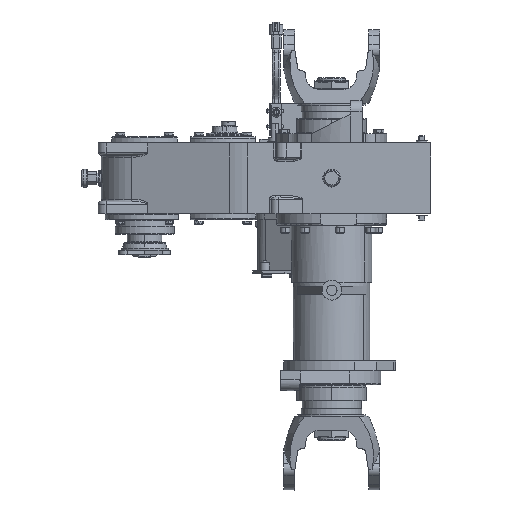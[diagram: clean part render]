
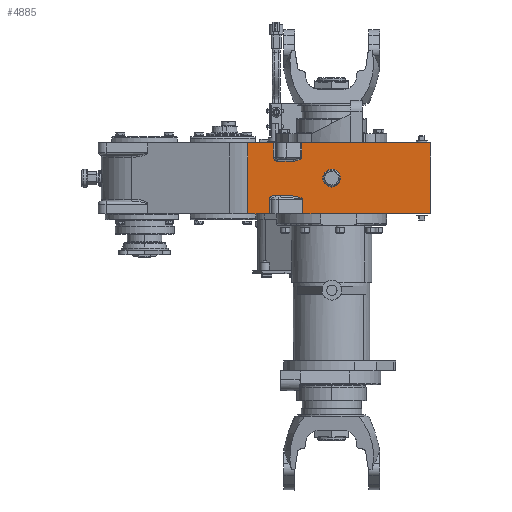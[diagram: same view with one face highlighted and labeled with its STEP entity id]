
A CAD part, left-side view. The second image highlights one B-rep face of the part: STEP entity #4885.
In plain terms, the highlighted planar face has unit normal (-1, 0, 0).
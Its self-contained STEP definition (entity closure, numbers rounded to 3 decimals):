
#245=CARTESIAN_POINT('',(-4.75,-5.097,-2.253));
#247=CARTESIAN_POINT('',(-4.75,-13.2,-2.253));
#1067=CARTESIAN_POINT('',(-4.75,-13.2,2.25));
#1092=CARTESIAN_POINT('',(-4.75,-3.221,2.25));
#2316=DIRECTION('',(0.,-1.,0.));
#2317=VECTOR('',#2316,1.392);
#2318=CARTESIAN_POINT('',(-4.75,-1.58,-2.253));
#2319=LINE('',#2318,#2317);
#2320=DIRECTION('',(0.,1.,0.));
#2321=VECTOR('',#2320,1.641);
#2322=CARTESIAN_POINT('',(-4.75,-3.221,2.25));
#2323=LINE('',#2322,#2321);
#2324=DIRECTION('',(0.,0.,-1.));
#2325=VECTOR('',#2324,0.911);
#2326=CARTESIAN_POINT('',(-4.75,-3.221,2.25));
#2327=LINE('',#2326,#2325);
#2328=CARTESIAN_POINT('',(-4.75,-3.487,
1.089));
#2329=CARTESIAN_POINT('',(-4.75,-3.457,
1.089));
#2330=CARTESIAN_POINT('',(-4.75,-3.401,
1.097));
#2331=CARTESIAN_POINT('',(-4.75,-3.323,
1.136));
#2332=CARTESIAN_POINT('',(-4.75,-3.265,
1.194));
#2333=CARTESIAN_POINT('',(-4.75,-3.228,
1.265));
#2334=CARTESIAN_POINT('',(-4.75,-3.22,
1.314));
#2335=CARTESIAN_POINT('',(-4.75,-3.221,
1.339));
#2337=CARTESIAN_POINT('',(-4.75,-5.014,
1.339));
#2338=CARTESIAN_POINT('',(-4.75,-5.014,
1.322));
#2339=CARTESIAN_POINT('',(-4.75,-5.007,
1.288));
#2340=CARTESIAN_POINT('',(-4.75,-4.973,
1.238));
#2341=CARTESIAN_POINT('',(-4.75,-4.922,
1.195));
#2342=CARTESIAN_POINT('',(-4.75,-4.857,1.159));
#2343=CARTESIAN_POINT('',(-4.75,-4.78,
1.13));
#2344=CARTESIAN_POINT('',(-4.75,-4.692,
1.108));
#2345=CARTESIAN_POINT('',(-4.75,-4.594,
1.093));
#2346=CARTESIAN_POINT('',(-4.75,-4.52,
1.089));
#2347=CARTESIAN_POINT('',(-4.75,-4.482,
1.089));
#2349=DIRECTION('',(0.,1.,0.));
#2350=VECTOR('',#2349,8.186);
#2351=CARTESIAN_POINT('',(-4.75,-13.2,2.25));
#2352=LINE('',#2351,#2350);
#2353=DIRECTION('',(0.,0.,-1.));
#2354=VECTOR('',#2353,4.503);
#2355=CARTESIAN_POINT('',(-4.75,-13.2,2.25));
#2356=LINE('',#2355,#2354);
#2357=DIRECTION('',(0.,-1.,0.));
#2358=VECTOR('',#2357,8.103);
#2359=CARTESIAN_POINT('',(-4.75,-5.097,-2.253));
#2360=LINE('',#2359,#2358);
#2361=DIRECTION('',(0.,0.,1.));
#2362=VECTOR('',#2361,0.914);
#2363=CARTESIAN_POINT('',(-4.75,-5.097,-2.253));
#2364=LINE('',#2363,#2362);
#2365=CARTESIAN_POINT('',(-4.75,-3.658,
-1.089));
#2366=CARTESIAN_POINT('',(-4.75,-3.707,
-1.089));
#2367=CARTESIAN_POINT('',(-4.75,-3.801,
-1.09));
#2368=CARTESIAN_POINT('',(-4.75,-3.932,
-1.093));
#2369=CARTESIAN_POINT('',(-4.75,-4.052,
-1.098));
#2370=CARTESIAN_POINT('',(-4.75,-4.164,
-1.104));
#2371=CARTESIAN_POINT('',(-4.75,-4.266,
-1.112));
#2372=CARTESIAN_POINT('',(-4.75,-4.361,
-1.12));
#2373=CARTESIAN_POINT('',(-4.75,-4.449,
-1.13));
#2374=CARTESIAN_POINT('',(-4.75,-4.529,
-1.14));
#2375=CARTESIAN_POINT('',(-4.75,-4.604,-1.15));
#2376=CARTESIAN_POINT('',(-4.75,-4.672,
-1.161));
#2377=CARTESIAN_POINT('',(-4.75,-4.735,
-1.173));
#2378=CARTESIAN_POINT('',(-4.75,-4.793,
-1.185));
#2379=CARTESIAN_POINT('',(-4.75,-4.846,
-1.197));
#2380=CARTESIAN_POINT('',(-4.75,-4.895,
-1.211));
#2381=CARTESIAN_POINT('',(-4.75,-4.939,
-1.224));
#2382=CARTESIAN_POINT('',(-4.75,-4.979,
-1.239));
#2383=CARTESIAN_POINT('',(-4.75,-5.015,
-1.255));
#2384=CARTESIAN_POINT('',(-4.75,-5.046,
-1.272));
#2385=CARTESIAN_POINT('',(-4.75,-5.073,
-1.291));
#2386=CARTESIAN_POINT('',(-4.75,-5.093,
-1.314));
#2387=CARTESIAN_POINT('',(-4.75,-5.097,
-1.33));
#2388=CARTESIAN_POINT('',(-4.75,-5.097,
-1.339));
#2390=CARTESIAN_POINT('',(-4.75,-2.972,
-1.339));
#2391=CARTESIAN_POINT('',(-4.75,-2.972,
-1.312));
#2392=CARTESIAN_POINT('',(-4.75,-2.982,
-1.26));
#2393=CARTESIAN_POINT('',(-4.75,-3.026,
-1.186));
#2394=CARTESIAN_POINT('',(-4.75,-3.101,
-1.127));
#2395=CARTESIAN_POINT('',(-4.75,-3.204,
-1.094));
#2396=CARTESIAN_POINT('',(-4.75,-3.283,
-1.088));
#2397=CARTESIAN_POINT('',(-4.75,-3.326,
-1.089));
#2399=CARTESIAN_POINT('',(-4.75,-6.924,0.));
#2400=DIRECTION('',(1.,0.,0.));
#2401=DIRECTION('',(0.,0.,-1.));
#2402=AXIS2_PLACEMENT_3D('',#2399,#2400,#2401);
#2404=CARTESIAN_POINT('',(-4.75,-6.924,0.));
#2405=DIRECTION('',(1.,0.,0.));
#2406=DIRECTION('',(0.,0.,1.));
#2407=AXIS2_PLACEMENT_3D('',#2404,#2405,#2406);
#2413=DIRECTION('',(0.,0.,-1.));
#2414=VECTOR('',#2413,4.503);
#2415=CARTESIAN_POINT('',(-4.75,-1.58,2.25));
#2416=LINE('',#2415,#2414);
#2450=DIRECTION('',(0.,0.,1.));
#2451=VECTOR('',#2450,0.911);
#2452=CARTESIAN_POINT('',(-4.75,-5.014,
1.339));
#2453=LINE('',#2452,#2451);
#2468=DIRECTION('',(0.,-1.,0.));
#2469=VECTOR('',#2468,0.995);
#2470=CARTESIAN_POINT('',(-4.75,-3.487,
1.089));
#2471=LINE('',#2470,#2469);
#2560=DIRECTION('',(0.,0.,-1.));
#2561=VECTOR('',#2560,0.914);
#2562=CARTESIAN_POINT('',(-4.75,-2.972,
-1.339));
#2563=LINE('',#2562,#2561);
#2573=DIRECTION('',(0.,1.,0.));
#2574=VECTOR('',#2573,0.332);
#2575=CARTESIAN_POINT('',(-4.75,-3.658,
-1.089));
#2576=LINE('',#2575,#2574);
#3074=VERTEX_POINT('',#245);
#3075=VERTEX_POINT('',#247);
#3150=VERTEX_POINT('',#1067);
#3152=VERTEX_POINT('',#1092);
#3257=CARTESIAN_POINT('',(-4.75,-5.097,
-1.339));
#3258=VERTEX_POINT('',#3257);
#3259=CARTESIAN_POINT('',(-4.75,-3.221,
1.339));
#3260=VERTEX_POINT('',#3259);
#3328=CARTESIAN_POINT('',(-4.75,-2.972,-2.253));
#3329=VERTEX_POINT('',#3328);
#3330=CARTESIAN_POINT('',(-4.75,-1.58,-2.253));
#3331=VERTEX_POINT('',#3330);
#3381=CARTESIAN_POINT('',(-4.75,-1.58,2.25));
#3382=VERTEX_POINT('',#3381);
#3389=CARTESIAN_POINT('',(-4.75,-5.014,2.25));
#3390=VERTEX_POINT('',#3389);
#3427=VERTEX_POINT('',#2328);
#3428=CARTESIAN_POINT('',(-4.75,-4.482,
1.089));
#3429=VERTEX_POINT('',#3428);
#3430=VERTEX_POINT('',#2337);
#3431=VERTEX_POINT('',#2365);
#3432=CARTESIAN_POINT('',(-4.75,-3.326,
-1.089));
#3433=VERTEX_POINT('',#3432);
#3434=VERTEX_POINT('',#2390);
#3435=CARTESIAN_POINT('',(-4.75,-6.924,-0.562));
#3436=CARTESIAN_POINT('',(-4.75,-6.924,0.562));
#3437=VERTEX_POINT('',#3435);
#3438=VERTEX_POINT('',#3436);
#4844=CARTESIAN_POINT('',(-4.75,-7.39,-0.001));
#4845=DIRECTION('',(1.,0.,0.));
#4846=DIRECTION('',(0.,-1.,0.));
#4847=AXIS2_PLACEMENT_3D('',#4844,#4845,#4846);
#4848=PLANE('',#4847);
#4849=ORIENTED_EDGE('',*,*,#3771,.F.);
#4851=ORIENTED_EDGE('',*,*,#4850,.F.);
#4852=ORIENTED_EDGE('',*,*,#4197,.F.);
#4854=ORIENTED_EDGE('',*,*,#4853,.T.);
#4856=ORIENTED_EDGE('',*,*,#4855,.F.);
#4858=ORIENTED_EDGE('',*,*,#4857,.T.);
#4860=ORIENTED_EDGE('',*,*,#4859,.F.);
#4862=ORIENTED_EDGE('',*,*,#4861,.T.);
#4863=ORIENTED_EDGE('',*,*,#4185,.F.);
#4865=ORIENTED_EDGE('',*,*,#4864,.T.);
#4866=ORIENTED_EDGE('',*,*,#3781,.F.);
#4868=ORIENTED_EDGE('',*,*,#4867,.T.);
#4870=ORIENTED_EDGE('',*,*,#4869,.F.);
#4872=ORIENTED_EDGE('',*,*,#4871,.T.);
#4874=ORIENTED_EDGE('',*,*,#4873,.F.);
#4876=ORIENTED_EDGE('',*,*,#4875,.T.);
#4877=EDGE_LOOP('',(#4849,#4851,#4852,#4854,#4856,#4858,#4860,#4862,#4863,#4865,
#4866,#4868,#4870,#4872,#4874,#4876));
#4878=FACE_OUTER_BOUND('',#4877,.F.);
#4880=ORIENTED_EDGE('',*,*,#4879,.F.);
#4882=ORIENTED_EDGE('',*,*,#4881,.F.);
#4883=EDGE_LOOP('',(#4880,#4882));
#4884=FACE_BOUND('',#4883,.F.);
#4885=ADVANCED_FACE('',(#4878,#4884),#4848,.F.);
#2336=B_SPLINE_CURVE_WITH_KNOTS('',3,(#2328,#2329,#2330,#2331,#2332,#2333,#2334,
#2335),.UNSPECIFIED.,.F.,.F.,(4,1,1,1,1,4),(0.,0.2,0.4,0.6,0.8,1.),
.UNSPECIFIED.);
#2348=B_SPLINE_CURVE_WITH_KNOTS('',3,(#2337,#2338,#2339,#2340,#2341,#2342,#2343,
#2344,#2345,#2346,#2347),.UNSPECIFIED.,.F.,.F.,(4,1,1,1,1,1,1,1,4),(0.,
0.125,0.25,0.375,0.5,0.625,0.75,0.875,1.),.UNSPECIFIED.);
#2389=B_SPLINE_CURVE_WITH_KNOTS('',3,(#2365,#2366,#2367,#2368,#2369,#2370,#2371,
#2372,#2373,#2374,#2375,#2376,#2377,#2378,#2379,#2380,#2381,#2382,#2383,#2384,
#2385,#2386,#2387,#2388),.UNSPECIFIED.,.F.,.F.,(4,1,1,1,1,1,1,1,1,1,1,1,1,1,1,1,
1,1,1,1,1,4),(0.,0.048,0.095,0.143,
0.19,0.238,0.286,0.333,
0.381,0.429,0.476,0.524,
0.571,0.619,0.667,0.714,
0.762,0.81,0.857,0.905,
0.952,1.),.UNSPECIFIED.);
#2398=B_SPLINE_CURVE_WITH_KNOTS('',3,(#2390,#2391,#2392,#2393,#2394,#2395,#2396,
#2397),.UNSPECIFIED.,.F.,.F.,(4,1,1,1,1,4),(0.,0.2,0.4,0.6,0.8,1.),
.UNSPECIFIED.);
#2403=CIRCLE('',#2402,0.562);
#2408=CIRCLE('',#2407,0.562);
#3771=EDGE_CURVE('',#3331,#3329,#2319,.T.);
#3781=EDGE_CURVE('',#3074,#3075,#2360,.T.);
#4185=EDGE_CURVE('',#3150,#3390,#2352,.T.);
#4197=EDGE_CURVE('',#3152,#3382,#2323,.T.);
#4850=EDGE_CURVE('',#3382,#3331,#2416,.T.);
#4853=EDGE_CURVE('',#3152,#3260,#2327,.T.);
#4855=EDGE_CURVE('',#3427,#3260,#2336,.T.);
#4857=EDGE_CURVE('',#3427,#3429,#2471,.T.);
#4859=EDGE_CURVE('',#3430,#3429,#2348,.T.);
#4861=EDGE_CURVE('',#3430,#3390,#2453,.T.);
#4864=EDGE_CURVE('',#3150,#3075,#2356,.T.);
#4867=EDGE_CURVE('',#3074,#3258,#2364,.T.);
#4869=EDGE_CURVE('',#3431,#3258,#2389,.T.);
#4871=EDGE_CURVE('',#3431,#3433,#2576,.T.);
#4873=EDGE_CURVE('',#3434,#3433,#2398,.T.);
#4875=EDGE_CURVE('',#3434,#3329,#2563,.T.);
#4879=EDGE_CURVE('',#3437,#3438,#2403,.T.);
#4881=EDGE_CURVE('',#3438,#3437,#2408,.T.);
